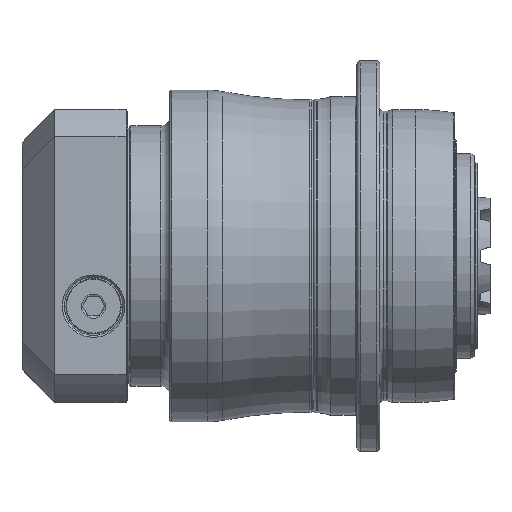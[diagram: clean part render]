
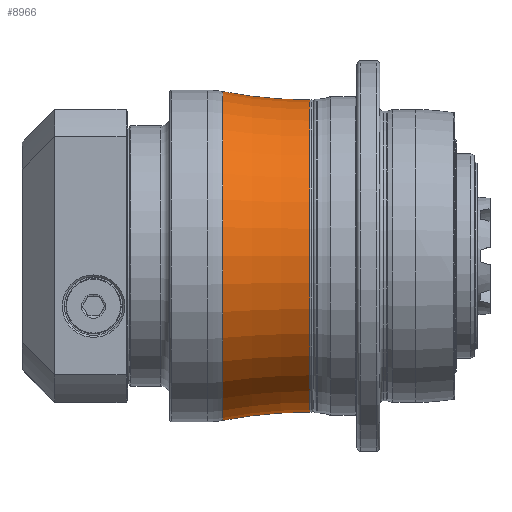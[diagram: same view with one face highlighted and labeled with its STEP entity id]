
A CAD part, top view. The second image highlights one B-rep face of the part: STEP entity #8966.
In plain terms, the highlighted toroidal (fillet/blend) face has major radius 189.667 mm and minor radius 141.667 mm.
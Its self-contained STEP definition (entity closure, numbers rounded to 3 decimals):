
#8480=CARTESIAN_POINT('',(-28.742,0.,0.));
#8481=DIRECTION('',(1.,0.,0.));
#8482=DIRECTION('',(0.,1.,0.));
#8483=AXIS2_PLACEMENT_3D('',#8480,#8481,#8482);
#8485=CARTESIAN_POINT('',(-55.5,0.,0.));
#8486=DIRECTION('',(1.,0.,0.));
#8487=DIRECTION('',(0.,1.,0.));
#8488=AXIS2_PLACEMENT_3D('',#8485,#8486,#8487);
#8543=CARTESIAN_POINT('',(-55.5,189.667,0.));
#8544=DIRECTION('',(0.,0.,1.));
#8545=DIRECTION('',(0.,-1.,0.));
#8546=AXIS2_PLACEMENT_3D('',#8543,#8544,#8545);
#8553=CARTESIAN_POINT('',(-55.5,-189.667,0.));
#8554=DIRECTION('',(0.,0.,-1.));
#8555=DIRECTION('',(0.,1.,0.));
#8556=AXIS2_PLACEMENT_3D('',#8553,#8554,#8555);
#8658=CARTESIAN_POINT('',(-55.5,48.,0.));
#8659=VERTEX_POINT('',#8658);
#8660=CARTESIAN_POINT('',(-55.5,-48.,0.));
#8661=VERTEX_POINT('',#8660);
#8698=CARTESIAN_POINT('',(-28.742,50.55,0.));
#8699=CARTESIAN_POINT('',(-28.742,-50.55,0.));
#8700=VERTEX_POINT('',#8698);
#8701=VERTEX_POINT('',#8699);
#8952=CARTESIAN_POINT('',(-55.5,0.,0.));
#8953=DIRECTION('',(1.,0.,0.));
#8954=DIRECTION('',(0.,-1.,0.));
#8955=AXIS2_PLACEMENT_3D('',#8952,#8953,#8954);
#8956=TOROIDAL_SURFACE('',#8955,189.667,141.667);
#8958=ORIENTED_EDGE('',*,*,#8957,.T.);
#8960=ORIENTED_EDGE('',*,*,#8959,.F.);
#8961=ORIENTED_EDGE('',*,*,#8946,.F.);
#8963=ORIENTED_EDGE('',*,*,#8962,.T.);
#8964=EDGE_LOOP('',(#8958,#8960,#8961,#8963));
#8965=FACE_OUTER_BOUND('',#8964,.F.);
#8966=ADVANCED_FACE('',(#8965),#8956,.F.);
#8484=CIRCLE('',#8483,50.55);
#8489=CIRCLE('',#8488,48.);
#8547=CIRCLE('',#8546,141.667);
#8557=CIRCLE('',#8556,141.667);
#8946=EDGE_CURVE('',#8659,#8661,#8489,.T.);
#8957=EDGE_CURVE('',#8700,#8701,#8484,.T.);
#8959=EDGE_CURVE('',#8661,#8701,#8557,.T.);
#8962=EDGE_CURVE('',#8659,#8700,#8547,.T.);
